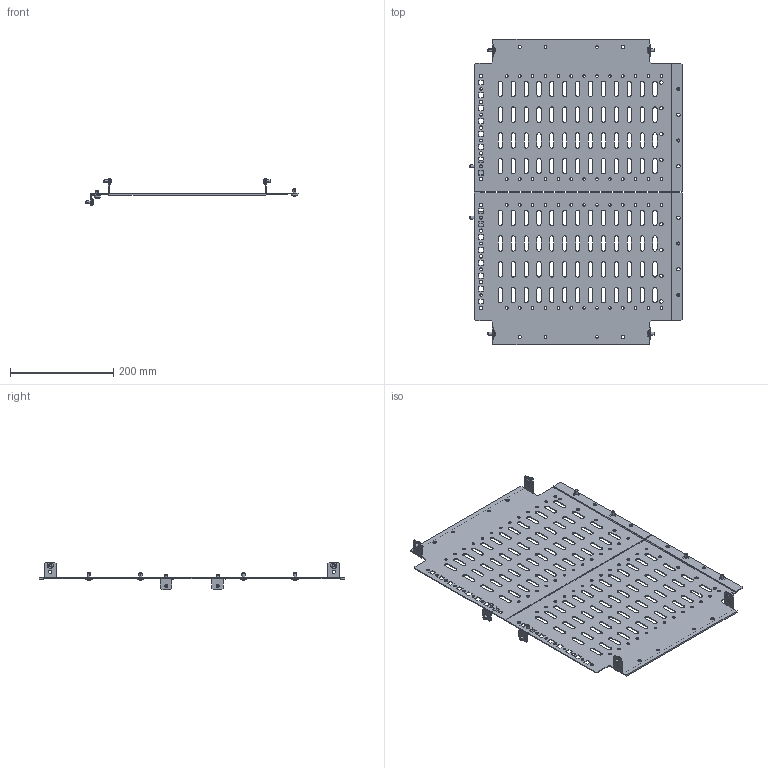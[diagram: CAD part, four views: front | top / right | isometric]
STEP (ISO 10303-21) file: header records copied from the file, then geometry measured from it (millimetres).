
FILE_DESCRIPTION (( 'STEP AP214' ), '1' );
FILE_NAME ('FO-00-SWH-060-040 Ïåðåãîðîäêà ñåêöèîíèðîâàíèÿ ãîðèçîíòàëüíàÿ 600õ400 ìì â øêàô ãëóáèíîé 800 ìì.STEP', '2025-08-13T08:58:51', ( '' ), ( '' ), 'SwSTEP 2.0', 'SolidWorks 2023', '' );
FILE_SCHEMA (( 'AUTOMOTIVE_DESIGN' ));
Length unit declared in the file: millimetre
Products named in the file (6): Уголок; Перегородка секционирования горизонтальная 600х400 мм в шкаф глубиной 800 мм (L); FO-00-SWH-060-040 Перегородка секционирования горизонтальная 600х400 мм в шкаф глубиной 800 мм; Перегородка секционирования горизонтальная 600х400 мм в шкаф глубиной 800 мм (R); Перегородка секционирования горизонтальная 600х400 мм в шкаф глубиной 800 мм R; Перегородка секционирования горизонтальная 600х400 мм в шкаф глубиной 800 мм L
Assembly tree (6 placements, depth 3):
  FO-00-SWH-060-040 Перегородка секционирования горизонтальная 600х400 мм в шкаф глубиной 800 мм
    Перегородка секционирования горизонтальная 600х400 мм в шкаф глубиной 800 мм (L)
      Перегородка секционирования горизонтальная 600х400 мм в шкаф глубиной 800 мм L
      Уголок
    Перегородка секционирования горизонтальная 600х400 мм в шкаф глубиной 800 мм (R)
      Перегородка секционирования горизонтальная 600х400 мм в шкаф глубиной 800 мм R
      Уголок
Bounding box: 411.5 x 593.6 x 54 mm (x, y, z)
Volume: 327519.1 mm3; surface area: 439752.7 mm2
Topology: 4 solids, 4 shells, 1314 faces, 3770 edges, 2492 vertices
Faces by surface type: cylinder 636, plane 614, cone 28, sphere 20, torus 16
Entity records: 42036 total; most frequent: CARTESIAN_POINT 7768, ORIENTED_EDGE 7126, DIRECTION 7019, EDGE_CURVE 3563, AXIS2_PLACEMENT_3D 2365, VERTEX_POINT 2358, LINE 2289, VECTOR 2289
